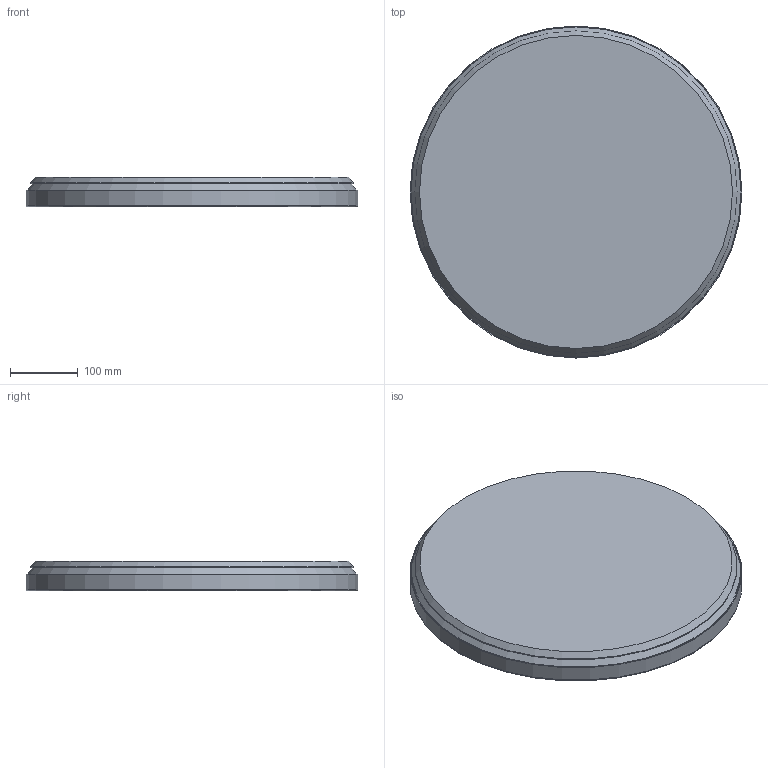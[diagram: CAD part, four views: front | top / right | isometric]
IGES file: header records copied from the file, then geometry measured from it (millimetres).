
Start section: SolidWorks IGES file using analytic representation for surfaces
Global section: file name: X:\PRODUKT\Modele 3D_WWW\_KOLEKCJE WWW\AGNES\AGNES-ROUND-LED-8205-8208-8187-8184\AGNES-ROUND-LED-8205-8208-8187-8184.IGS; native system: SolidWorks 2021; preprocessor: SolidWorks 2021; author: gabriela.tworek; date: 220708.112532; units: millimetre
Bounding box: 490 x 490 x 44.25 mm (x, y, z)
Surface area: 576359.4 mm2 (no closed solid volume)
Topology: 0 solids, 0 shells, 23 faces, 55 edges, 42 vertices
Faces by surface type: revolution 13, bspline 10
